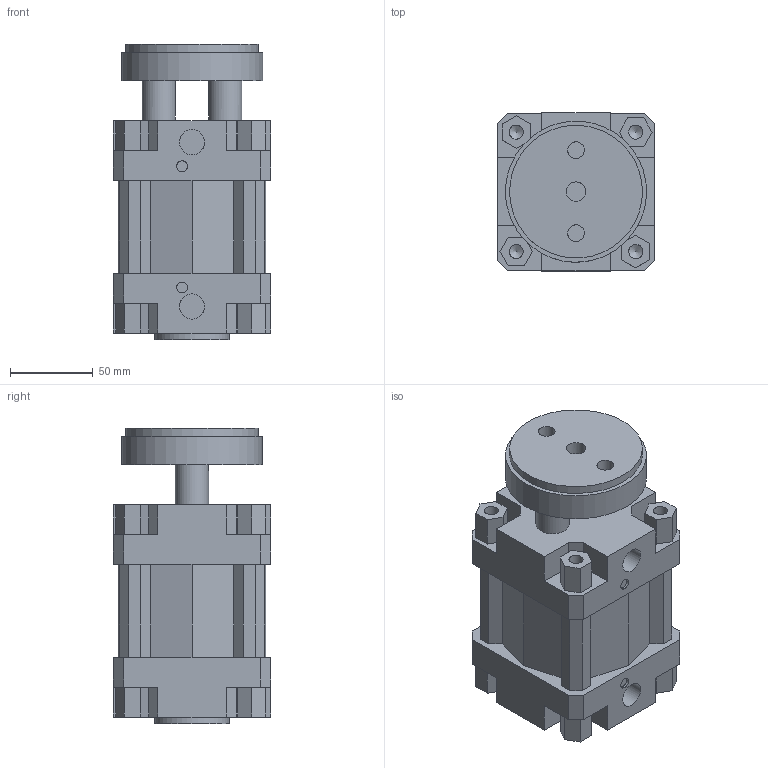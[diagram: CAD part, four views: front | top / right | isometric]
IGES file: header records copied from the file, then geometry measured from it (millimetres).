
Global section: file name: 132#_080_0000_01; native system: Autodesk Inventor 2014; preprocessor: unknown; author: A. Manieri; date: 20161006.162245; units: millimetre
Bounding box: 95 x 95 x 178 mm (x, y, z)
Volume: 1088685 mm3; surface area: 160628.2 mm2
Topology: 2 solids, 2 shells, 180 faces, 491 edges, 335 vertices
Faces by surface type: bspline 180
